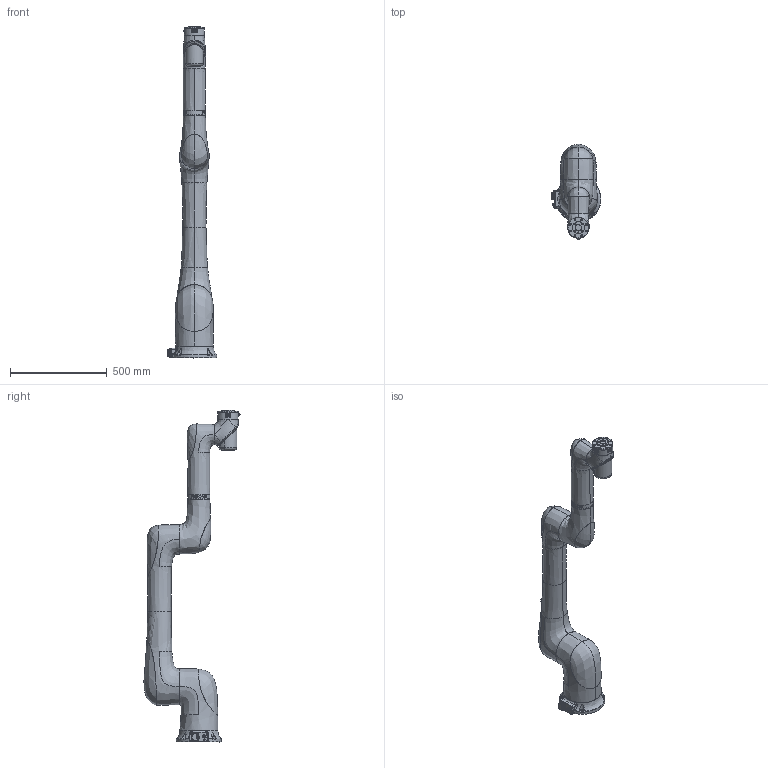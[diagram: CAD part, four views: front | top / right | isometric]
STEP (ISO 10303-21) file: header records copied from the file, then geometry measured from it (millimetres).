
FILE_DESCRIPTION(/* description */ (''),/* implementation_level */ '2;1');
FILE_NAME(/* name */ '【】XMC12-R1300-C 简化模型（20231219）.stp',/* time_stamp */ '2023-12-19T17:43:17+08:00',/* author */ (''),/* organization */ (''),/* preprocessor_version */ 'ST-DEVELOPER v16',/* originating_system */ 'SIEMENS PLM Software NX 10.0',/* authorisation */ '');
FILE_SCHEMA (('AUTOMOTIVE_DESIGN { 1 0 10303 214 3 1 1 1 }'));
Products named in the file (8): XMC12-C-shuchu-A; XMC12-C-shouwan-A; XMC12-C-base-A; XMC12-C-xiaobihou-A; XMC12-C-xiaobiqian-A; XMC12-C-dabi-A; XMC12-C-yao-A; 【】XMC12-C-R1300 简化模型 2
0231128
Assembly tree (7 placements, depth 2):
  【】XMC12-C-R1300 简化模型 2
0231128
    XMC12-C-yao-A
    XMC12-C-dabi-A
    XMC12-C-xiaobiqian-A
    XMC12-C-xiaobihou-A
    XMC12-C-base-A
    XMC12-C-shouwan-A
    XMC12-C-shuchu-A
Bounding box: 257.51 x 496.28 x 1713 mm (x, y, z)
Volume: 36254002.5 mm3; surface area: 1620264.5 mm2
Topology: 14 solids, 37 shells, 2639 faces, 6744 edges, 4277 vertices
Faces by surface type: plane 1272, cone 556, cylinder 506, bspline 154, torus 132, extrusion 10, sphere 8, revolution 1
Full cylindrical faces by diameter (mm): 0.8 x8, 2.5 x8, 2.874 x8, 3.3 x1, 3.4 x8, 3.8 x8, 4 x1, 4.2 x1, 4.84 x4, 5 x4, 5.5 x8, 5.8 x1, 6 x3, 6.7 x3, 7 x9, 8 x1, 8.3 x2, 8.9 x1, 9.321 x1, 11 x4, 12.5 x1, 13.079 x1, 13.8 x1, 14 x1, 28.5 x1, 31.5 x1, 63 x1, 80 x4, 100 x2, 104.6 x2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
Entity records: 99431 total; most frequent: CARTESIAN_POINT 38503, ORIENTED_EDGE 12754, DIRECTION 11989, EDGE_CURVE 6377, AXIS2_PLACEMENT_3D 4648, VERTEX_POINT 4198, EDGE_LOOP 3089, VECTOR 2692
